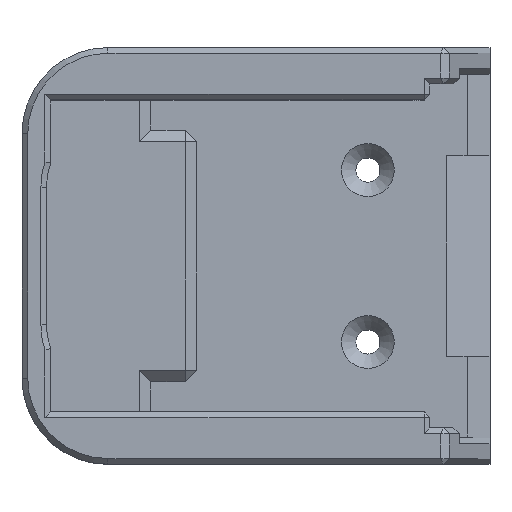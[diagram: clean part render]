
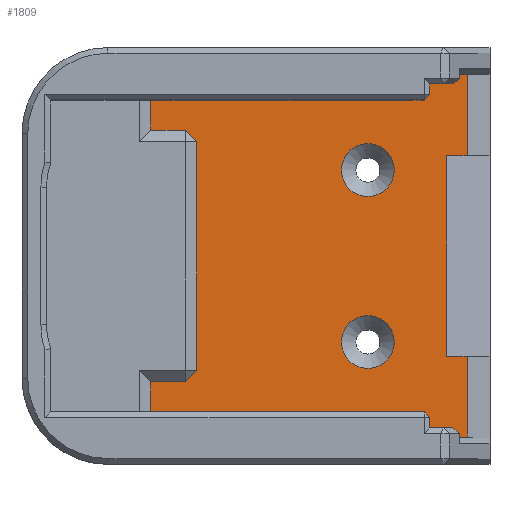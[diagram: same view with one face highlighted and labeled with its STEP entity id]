
A CAD part, top view. The second image highlights one B-rep face of the part: STEP entity #1809.
In plain terms, the highlighted planar face has unit normal (0, 0, 1).
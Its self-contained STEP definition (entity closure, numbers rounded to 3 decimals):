
#43=FACE_BOUND('',#200,.T.);
#44=FACE_BOUND('',#201,.T.);
#49=CIRCLE('',#1938,4.6);
#50=CIRCLE('',#1939,4.6);
#87=FACE_OUTER_BOUND('',#199,.T.);
#199=EDGE_LOOP('',(#1260,#1261,#1262,#1263,#1264,#1265,#1266,#1267,#1268,
#1269,#1270,#1271,#1272,#1273));
#200=EDGE_LOOP('',(#1274));
#201=EDGE_LOOP('',(#1275));
#321=LINE('',#2623,#551);
#351=LINE('',#2690,#581);
#352=LINE('',#2693,#582);
#354=LINE('',#2697,#584);
#355=LINE('',#2699,#585);
#356=LINE('',#2700,#586);
#357=LINE('',#2702,#587);
#358=LINE('',#2704,#588);
#359=LINE('',#2706,#589);
#360=LINE('',#2708,#590);
#361=LINE('',#2710,#591);
#362=LINE('',#2712,#592);
#363=LINE('',#2714,#593);
#364=LINE('',#2715,#594);
#551=VECTOR('',#2091,10.);
#581=VECTOR('',#2149,10.);
#582=VECTOR('',#2152,10.);
#584=VECTOR('',#2156,10.);
#585=VECTOR('',#2157,10.);
#586=VECTOR('',#2158,10.);
#587=VECTOR('',#2159,10.);
#588=VECTOR('',#2160,10.);
#589=VECTOR('',#2161,10.);
#590=VECTOR('',#2162,10.);
#591=VECTOR('',#2163,10.);
#592=VECTOR('',#2164,10.);
#593=VECTOR('',#2165,10.);
#594=VECTOR('',#2166,10.);
#779=VERTEX_POINT('',#2620);
#780=VERTEX_POINT('',#2622);
#802=VERTEX_POINT('',#2686);
#803=VERTEX_POINT('',#2688);
#804=VERTEX_POINT('',#2692);
#805=VERTEX_POINT('',#2696);
#806=VERTEX_POINT('',#2698);
#807=VERTEX_POINT('',#2701);
#808=VERTEX_POINT('',#2703);
#809=VERTEX_POINT('',#2705);
#810=VERTEX_POINT('',#2707);
#811=VERTEX_POINT('',#2709);
#812=VERTEX_POINT('',#2711);
#813=VERTEX_POINT('',#2713);
#814=VERTEX_POINT('',#2716);
#815=VERTEX_POINT('',#2718);
#937=EDGE_CURVE('',#779,#780,#321,.T.);
#971=EDGE_CURVE('',#803,#802,#351,.T.);
#972=EDGE_CURVE('',#780,#804,#352,.T.);
#974=EDGE_CURVE('',#803,#805,#354,.T.);
#975=EDGE_CURVE('',#806,#805,#355,.T.);
#976=EDGE_CURVE('',#806,#804,#356,.T.);
#977=EDGE_CURVE('',#807,#779,#357,.T.);
#978=EDGE_CURVE('',#808,#807,#358,.T.);
#979=EDGE_CURVE('',#809,#808,#359,.F.);
#980=EDGE_CURVE('',#810,#809,#360,.T.);
#981=EDGE_CURVE('',#811,#810,#361,.F.);
#982=EDGE_CURVE('',#812,#811,#362,.T.);
#983=EDGE_CURVE('',#813,#812,#363,.T.);
#984=EDGE_CURVE('',#802,#813,#364,.T.);
#985=EDGE_CURVE('',#814,#814,#49,.T.);
#986=EDGE_CURVE('',#815,#815,#50,.T.);
#1260=ORIENTED_EDGE('',*,*,#971,.F.);
#1261=ORIENTED_EDGE('',*,*,#974,.T.);
#1262=ORIENTED_EDGE('',*,*,#975,.F.);
#1263=ORIENTED_EDGE('',*,*,#976,.T.);
#1264=ORIENTED_EDGE('',*,*,#972,.F.);
#1265=ORIENTED_EDGE('',*,*,#937,.F.);
#1266=ORIENTED_EDGE('',*,*,#977,.F.);
#1267=ORIENTED_EDGE('',*,*,#978,.F.);
#1268=ORIENTED_EDGE('',*,*,#979,.F.);
#1269=ORIENTED_EDGE('',*,*,#980,.F.);
#1270=ORIENTED_EDGE('',*,*,#981,.F.);
#1271=ORIENTED_EDGE('',*,*,#982,.F.);
#1272=ORIENTED_EDGE('',*,*,#983,.F.);
#1273=ORIENTED_EDGE('',*,*,#984,.F.);
#1274=ORIENTED_EDGE('',*,*,#985,.F.);
#1275=ORIENTED_EDGE('',*,*,#986,.F.);
#1719=PLANE('',#1937);
#1809=ADVANCED_FACE('',(#87,#43,#44),#1719,.F.);
#1937=AXIS2_PLACEMENT_3D('',#2695,#2154,#2155);
#1938=AXIS2_PLACEMENT_3D('',#2717,#2167,#2168);
#1939=AXIS2_PLACEMENT_3D('',#2719,#2169,#2170);
#2091=DIRECTION('',(1.,0.,0.));
#2149=DIRECTION('',(0.,-1.,0.));
#2152=DIRECTION('',(0.,-1.,0.));
#2154=DIRECTION('center_axis',(0.,0.,-1.));
#2155=DIRECTION('ref_axis',(-1.,0.,0.));
#2156=DIRECTION('',(-1.,0.,0.));
#2157=DIRECTION('',(0.,-1.,0.));
#2158=DIRECTION('',(1.,0.,0.));
#2159=DIRECTION('',(0.,1.,0.));
#2160=DIRECTION('',(-1.,0.,0.));
#2161=DIRECTION('',(0.707,-0.707,0.));
#2162=DIRECTION('',(0.,1.,0.));
#2163=DIRECTION('',(-0.707,-0.707,0.));
#2164=DIRECTION('',(1.,0.,0.));
#2165=DIRECTION('',(0.,1.,0.));
#2166=DIRECTION('',(-1.,0.,0.));
#2167=DIRECTION('center_axis',(0.,0.,1.));
#2168=DIRECTION('ref_axis',(-1.,0.,0.));
#2169=DIRECTION('center_axis',(0.,0.,1.));
#2170=DIRECTION('ref_axis',(-1.,0.,0.));
#2620=CARTESIAN_POINT('',(-27.9,31.75,-0.2));
#2622=CARTESIAN_POINT('',(27.298,31.75,-0.2));
#2623=CARTESIAN_POINT('',(30.752,31.75,-0.2));
#2686=CARTESIAN_POINT('',(27.298,-31.75,-0.2));
#2688=CARTESIAN_POINT('',(27.298,-17.5,-0.2));
#2690=CARTESIAN_POINT('',(27.298,-23.,-0.2));
#2692=CARTESIAN_POINT('',(27.298,17.5,-0.2));
#2693=CARTESIAN_POINT('',(27.298,-23.,-0.2));
#2695=CARTESIAN_POINT('Origin',(-4.15,0.,-0.2));
#2696=CARTESIAN_POINT('',(23.729,-17.5,-0.2));
#2697=CARTESIAN_POINT('',(16.15,-17.5,-0.2));
#2698=CARTESIAN_POINT('',(23.729,17.5,-0.2));
#2699=CARTESIAN_POINT('',(23.729,-12.75,-0.2));
#2700=CARTESIAN_POINT('',(9.65,17.5,-0.2));
#2701=CARTESIAN_POINT('',(-27.9,21.95,-0.2));
#2702=CARTESIAN_POINT('',(-27.9,31.35,-0.2));
#2703=CARTESIAN_POINT('',(-21.85,21.95,-0.2));
#2704=CARTESIAN_POINT('',(-19.85,21.95,-0.2));
#2705=CARTESIAN_POINT('',(-19.85,19.95,-0.2));
#2706=CARTESIAN_POINT('',(-11.438,11.538,-0.2));
#2707=CARTESIAN_POINT('',(-19.85,-19.95,-0.2));
#2708=CARTESIAN_POINT('',(-19.85,11.292,-0.2));
#2709=CARTESIAN_POINT('',(-21.85,-21.95,-0.2));
#2710=CARTESIAN_POINT('',(-11.438,-11.538,-0.2));
#2711=CARTESIAN_POINT('',(-27.9,-21.95,-0.2));
#2712=CARTESIAN_POINT('',(-12.,-21.95,-0.2));
#2713=CARTESIAN_POINT('',(-27.9,-31.75,-0.2));
#2714=CARTESIAN_POINT('',(-27.9,-13.325,-0.2));
#2715=CARTESIAN_POINT('',(42.05,-31.75,-0.2));
#2716=CARTESIAN_POINT('',(14.6,-15.,-0.2));
#2717=CARTESIAN_POINT('Origin',(10.,-15.,-0.2));
#2718=CARTESIAN_POINT('',(14.6,15.,-0.2));
#2719=CARTESIAN_POINT('Origin',(10.,15.,-0.2));
